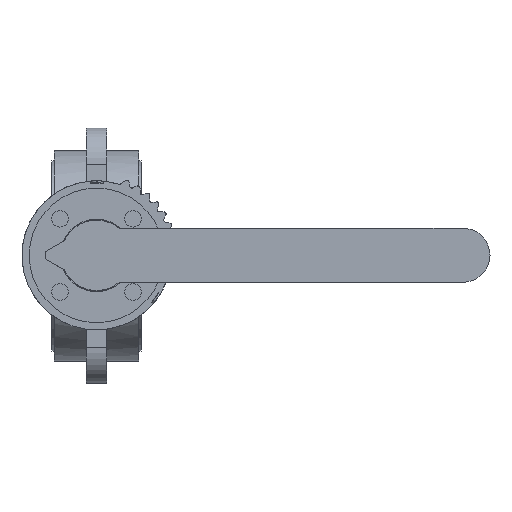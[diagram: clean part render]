
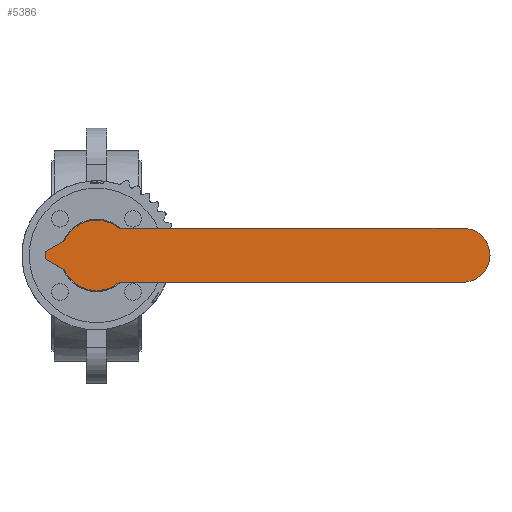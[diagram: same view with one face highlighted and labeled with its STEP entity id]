
A CAD part, top view. The second image highlights one B-rep face of the part: STEP entity #5386.
In plain terms, the highlighted planar face has unit normal (0, 0, 1).
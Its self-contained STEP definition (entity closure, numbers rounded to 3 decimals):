
#5386=ADVANCED_FACE('',(#10578),#10580,.T.);
#10578=FACE_BOUND('',#10579,.T.);
#10579=EDGE_LOOP('',(#14693,#14694,#14695,#14696,#14697,#14698,#14699,#14700,#14701,
#14702,#14703));
#10580=PLANE('',#10581);
#10581=AXIS2_PLACEMENT_3D('',#10582,#10583,#10584);
#10582=CARTESIAN_POINT('',(-1.545,-4.755,196.));
#10583=DIRECTION('',(0.,0.,1.));
#10584=DIRECTION('',(0.951,-0.309,0.));
#14693=ORIENTED_EDGE('',*,*,#17013,.F.);
#14694=ORIENTED_EDGE('',*,*,#17014,.T.);
#14695=ORIENTED_EDGE('',*,*,#17015,.T.);
#14696=ORIENTED_EDGE('',*,*,#17016,.T.);
#14697=ORIENTED_EDGE('',*,*,#17017,.T.);
#14698=ORIENTED_EDGE('',*,*,#17018,.T.);
#14699=ORIENTED_EDGE('',*,*,#17019,.T.);
#14700=ORIENTED_EDGE('',*,*,#17020,.T.);
#14701=ORIENTED_EDGE('',*,*,#17021,.T.);
#14702=ORIENTED_EDGE('',*,*,#17022,.T.);
#14703=ORIENTED_EDGE('',*,*,#17023,.T.);
#17013=EDGE_CURVE('',#20160,#20161,#20162,.F.);
#17014=EDGE_CURVE('',#20160,#20163,#20164,.T.);
#17015=EDGE_CURVE('',#20163,#20165,#20166,.T.);
#17016=EDGE_CURVE('',#20165,#20167,#20168,.T.);
#17017=EDGE_CURVE('',#20167,#20169,#20170,.T.);
#17018=EDGE_CURVE('',#20169,#20171,#20172,.T.);
#17019=EDGE_CURVE('',#20171,#20173,#20174,.T.);
#17020=EDGE_CURVE('',#20173,#20175,#20176,.T.);
#17021=EDGE_CURVE('',#20175,#20177,#20178,.T.);
#17022=EDGE_CURVE('',#20177,#20179,#20180,.T.);
#17023=EDGE_CURVE('',#20179,#20161,#20181,.T.);
#20160=VERTEX_POINT('',#28362);
#20161=VERTEX_POINT('',#28363);
#20162=CIRCLE('',#28364,13.);
#20163=VERTEX_POINT('',#28368);
#20164=LINE('',#28369,#28370);
#20165=VERTEX_POINT('',#28372);
#20166=CIRCLE('',#28373,17.);
#20167=VERTEX_POINT('',#28377);
#20168=CIRCLE('',#28378,17.);
#20169=VERTEX_POINT('',#28382);
#20170=CIRCLE('',#28383,3.);
#20171=VERTEX_POINT('',#28387);
#20172=LINE('',#28388,#28389);
#20173=VERTEX_POINT('',#28391);
#20174=CIRCLE('',#28392,3.);
#20175=VERTEX_POINT('',#28396);
#20176=LINE('',#28397,#28398);
#20177=VERTEX_POINT('',#28400);
#20178=CIRCLE('',#28401,3.);
#20179=VERTEX_POINT('',#28405);
#20180=CIRCLE('',#28406,17.);
#20181=LINE('',#28410,#28411);
#28362=CARTESIAN_POINT('',(177.,13.,196.));
#28363=CARTESIAN_POINT('',(177.,-13.,196.));
#28364=AXIS2_PLACEMENT_3D('',#28365,#28366,#28367);
#28365=CARTESIAN_POINT('',(177.,0.,196.));
#28366=DIRECTION('',(0.,0.,1.));
#28367=DIRECTION('',(0.,-1.,0.));
#28368=CARTESIAN_POINT('',(10.954,13.,196.));
#28369=CARTESIAN_POINT('',(177.,13.,196.));
#28370=VECTOR('',#28371,1.);
#28371=DIRECTION('',(-1.,0.,0.));
#28372=CARTESIAN_POINT('',(2.659,16.791,196.));
#28373=AXIS2_PLACEMENT_3D('',#28374,#28375,#28376);
#28374=CARTESIAN_POINT('',(0.,0.,196.));
#28375=DIRECTION('',(0.,0.,1.));
#28376=DIRECTION('',(0.644,0.765,0.));
#28377=CARTESIAN_POINT('',(-15.113,7.785,196.));
#28378=AXIS2_PLACEMENT_3D('',#28379,#28380,#28381);
#28379=CARTESIAN_POINT('',(0.,0.,196.));
#28380=DIRECTION('',(0.,0.,1.));
#28381=DIRECTION('',(0.156,0.988,0.));
#28382=CARTESIAN_POINT('',(-16.317,6.539,196.));
#28383=AXIS2_PLACEMENT_3D('',#28384,#28385,#28386);
#28384=CARTESIAN_POINT('',(-17.78,9.159,196.));
#28385=DIRECTION('',(0.,0.,-1.));
#28386=DIRECTION('',(0.889,-0.458,0.));
#28387=CARTESIAN_POINT('',(-23.338,2.619,196.));
#28388=CARTESIAN_POINT('',(-16.317,6.539,196.));
#28389=VECTOR('',#28390,1.);
#28390=DIRECTION('',(-0.873,-0.487,0.));
#28391=CARTESIAN_POINT('',(-23.338,-2.619,196.));
#28392=AXIS2_PLACEMENT_3D('',#28393,#28394,#28395);
#28393=CARTESIAN_POINT('',(-21.876,0.,196.));
#28394=DIRECTION('',(0.,0.,1.));
#28395=DIRECTION('',(-0.487,0.873,0.));
#28396=CARTESIAN_POINT('',(-16.317,-6.539,196.));
#28397=CARTESIAN_POINT('',(-23.338,-2.619,196.));
#28398=VECTOR('',#28399,1.);
#28399=DIRECTION('',(0.873,-0.487,0.));
#28400=CARTESIAN_POINT('',(-15.113,-7.785,196.));
#28401=AXIS2_PLACEMENT_3D('',#28402,#28403,#28404);
#28402=CARTESIAN_POINT('',(-17.78,-9.159,196.));
#28403=DIRECTION('',(0.,0.,-1.));
#28404=DIRECTION('',(0.487,0.873,0.));
#28405=CARTESIAN_POINT('',(10.954,-13.,196.));
#28406=AXIS2_PLACEMENT_3D('',#28407,#28408,#28409);
#28407=CARTESIAN_POINT('',(0.,0.,196.));
#28408=DIRECTION('',(0.,0.,1.));
#28409=DIRECTION('',(-0.889,-0.458,0.));
#28410=CARTESIAN_POINT('',(10.954,-13.,196.));
#28411=VECTOR('',#28412,1.);
#28412=DIRECTION('',(1.,0.,0.));
